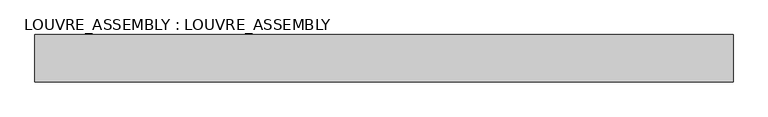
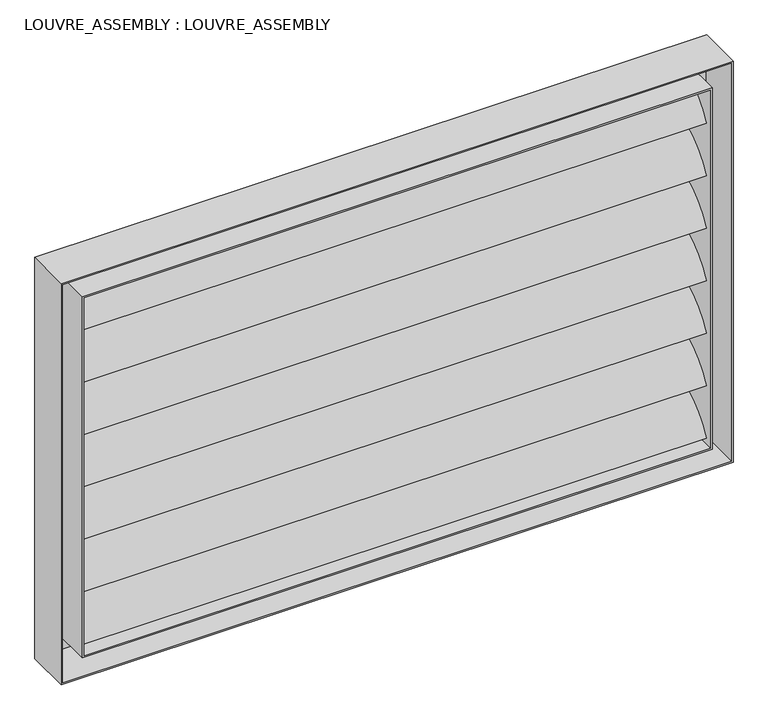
"""IFC4 building model written with IfcOpenShell, lengths in millimetres: plate geometry, LOUVRE_ASSEMBLY : LOUVRE_ASSEMBLY."""

from ifc_helpers import new_model, si_unit, point, frame, frame_2d, origin, place, context, project, spatial, circle_curve, trimmed, segment, composite_curve, outline, extrude, faceted_brep, source, transform, mapped, element, save


def louvre_assembly_louvre_assembly_d6f96269(model_context):
    return source(origin(), model_context, "Body", "SolidModel", [
        extrude(outline(composite_curve([segment(trimmed(circle_curve(frame_2d((148.492424, 184.007576)), 222.9910312), [point((-53.0330086, 279.4669914))], [point((53.0330086, 385.5330086))], False, "CARTESIAN"), True, "CONTINUOUS"), segment(trimmed(circle_curve(frame_2d((-148.492424, 480.992424)), 222.9910312), [point((53.0330086, 385.5330086))], [point((-53.0330086, 279.4669914))], False, "CARTESIAN"), True, "CONTINUOUS")], self_intersect=False)), frame((-1030.0, 0.0, 0.0), z_axis=(1.0, 0.0, 0.0), x_axis=(0.0, 1.0, 0.0)), (0.0, 0.0, 1.0), 2060.0),
        extrude(outline(composite_curve([segment(trimmed(circle_curve(frame_2d((148.492424, 366.507576)), 222.9910312), [point((-53.0330086, 461.9669914))], [point((53.0330086, 568.0330086))], False, "CARTESIAN"), True, "CONTINUOUS"), segment(trimmed(circle_curve(frame_2d((-148.492424, 663.492424)), 222.9910312), [point((53.0330086, 568.0330086))], [point((-53.0330086, 461.9669914))], False, "CARTESIAN"), True, "CONTINUOUS")], self_intersect=False)), frame((-1030.0, 0.0, 0.0), z_axis=(1.0, 0.0, 0.0), x_axis=(0.0, 1.0, 0.0)), (0.0, 0.0, 1.0), 2060.0),
        extrude(outline(composite_curve([segment(trimmed(circle_curve(frame_2d((148.492424, 549.007576)), 222.9910312), [point((-53.0330086, 644.4669914))], [point((53.0330086, 750.5330086))], False, "CARTESIAN"), True, "CONTINUOUS"), segment(trimmed(circle_curve(frame_2d((-148.492424, 845.992424)), 222.9910312), [point((53.0330086, 750.5330086))], [point((-53.0330086, 644.4669914))], False, "CARTESIAN"), True, "CONTINUOUS")], self_intersect=False)), frame((-1030.0, 0.0, 0.0), z_axis=(1.0, 0.0, 0.0), x_axis=(0.0, 1.0, 0.0)), (0.0, 0.0, 1.0), 2060.0),
        extrude(outline(composite_curve([segment(trimmed(circle_curve(frame_2d((148.492424, 731.507576)), 222.9910312), [point((-53.0330086, 826.9669914))], [point((53.0330086, 933.0330086))], False, "CARTESIAN"), True, "CONTINUOUS"), segment(trimmed(circle_curve(frame_2d((-148.492424, 1028.492424)), 222.9910312), [point((53.0330086, 933.0330086))], [point((-53.0330086, 826.9669914))], False, "CARTESIAN"), True, "CONTINUOUS")], self_intersect=False)), frame((-1030.0, 0.0, 0.0), z_axis=(1.0, 0.0, 0.0), x_axis=(0.0, 1.0, 0.0)), (0.0, 0.0, 1.0), 2060.0),
        extrude(outline(composite_curve([segment(trimmed(circle_curve(frame_2d((148.492424, 914.007576)), 222.9910312), [point((-53.0330086, 1009.4669914))], [point((53.0330086, 1115.5330086))], False, "CARTESIAN"), True, "CONTINUOUS"), segment(trimmed(circle_curve(frame_2d((-148.492424, 1210.992424)), 222.9910312), [point((53.0330086, 1115.5330086))], [point((-53.0330086, 1009.4669914))], False, "CARTESIAN"), True, "CONTINUOUS")], self_intersect=False)), frame((-1030.0, 0.0, 0.0), z_axis=(1.0, 0.0, 0.0), x_axis=(0.0, 1.0, 0.0)), (0.0, 0.0, 1.0), 2060.0),
        extrude(outline(composite_curve([segment(trimmed(circle_curve(frame_2d((148.492424, 1.507576)), 222.9910312), [point((-53.0330086, 96.9669914))], [point((53.0330086, 203.0330086))], False, "CARTESIAN"), True, "CONTINUOUS"), segment(trimmed(circle_curve(frame_2d((-148.492424, 298.492424)), 222.9910312), [point((53.0330086, 203.0330086))], [point((-53.0330086, 96.9669914))], False, "CARTESIAN"), True, "CONTINUOUS")], self_intersect=False)), frame((-1030.0, 0.0, 0.0), z_axis=(1.0, 0.0, 0.0), x_axis=(0.0, 1.0, 0.0)), (0.0, 0.0, 1.0), 2060.0),
        extrude(outline(composite_curve([segment(trimmed(circle_curve(frame_2d((148.492424, 1096.507576)), 222.9910312), [point((-53.0330086, 1191.9669914))], [point((53.0330086, 1298.0330086))], False, "CARTESIAN"), True, "CONTINUOUS"), segment(trimmed(circle_curve(frame_2d((-148.492424, 1393.492424)), 222.9910312), [point((53.0330086, 1298.0330086))], [point((-53.0330086, 1191.9669914))], False, "CARTESIAN"), True, "CONTINUOUS")], self_intersect=False)), frame((-1030.0, 0.0, 0.0), z_axis=(1.0, 0.0, 0.0), x_axis=(0.0, 1.0, 0.0)), (0.0, 0.0, 1.0), 2060.0),
        faceted_brep([(-1105.0, 75.0, 1395.0), (-1105.0, 75.0, 0.0), (-1105.0, -75.0, 0.0), (-1105.0, -75.0, 1395.0), (-1099.375, -75.0, 1389.375), (-1099.375, -75.0, 5.625), (-1099.375, 69.375, 5.625), (-1099.375, 69.375, 1389.375), (-1035.625, 69.375, 1325.625), (-1035.625, 69.375, 69.375), (-1035.625, -75.0, 69.375), (-1035.625, -75.0, 1325.625), (-1030.0, -75.0, 1320.0), (-1030.0, -75.0, 75.0), (-1030.0, 75.0, 75.0), (-1030.0, 75.0, 1320.0), (1105.0, 75.0, 0.0), (1105.0, -75.0, 0.0), (1099.375, -75.0, 5.625), (1099.375, 69.375, 5.625), (1035.625, 69.375, 69.375), (1035.625, -75.0, 69.375), (1030.0, -75.0, 75.0), (1030.0, 75.0, 75.0), (1105.0, 75.0, 1395.0), (1105.0, -75.0, 1395.0), (1099.375, -75.0, 1389.375), (1099.375, 69.375, 1389.375), (1035.625, 69.375, 1325.625), (1035.625, -75.0, 1325.625), (1030.0, -75.0, 1320.0), (1030.0, 75.0, 1320.0)], [[[0, 1, 2, 3]], [[4, 5, 6, 7]], [[8, 9, 10, 11]], [[12, 13, 14, 15]], [[1, 16, 17, 2]], [[5, 18, 19, 6]], [[9, 20, 21, 10]], [[13, 22, 23, 14]], [[16, 24, 25, 17]], [[18, 26, 27, 19]], [[20, 28, 29, 21]], [[22, 30, 31, 23]], [[24, 0, 3, 25]], [[26, 4, 7, 27]], [[28, 8, 11, 29]], [[30, 12, 15, 31]], [[1, 0, 24, 16], [15, 14, 23, 31]], [[11, 10, 21, 29], [13, 12, 30, 22]], [[7, 6, 19, 27], [9, 8, 28, 20]], [[3, 2, 17, 25], [5, 4, 26, 18]]]),
    ])


if __name__ == "__main__":
    model = new_model("IFC4")
    model_context = context("Model", 3, world=origin())
    ifc_project = project(units=[si_unit("LENGTHUNIT", "METRE", prefix="MILLI")], contexts=[model_context])
    site = spatial("IfcSite", under=ifc_project)
    building = spatial("IfcBuilding", under=site)
    placement = place(None, origin())
    louvre_assembly_louvre_assembly_shape = louvre_assembly_louvre_assembly_d6f96269(model_context)
    element("IfcPlate", 1, ObjectType="LOUVRE_ASSEMBLY : LOUVRE_ASSEMBLY", at=placement, inside=building, context=model_context, shape_type="MappedRepresentation", body=[
        mapped(louvre_assembly_louvre_assembly_shape, transform((0.0, 0.0, 0.0), x_axis=(1.0, 0.0, 0.0), y_axis=(0.0, 1.0, 0.0), z_axis=(0.0, 0.0, 1.0))),
    ])
    save(model, "model.ifc")
